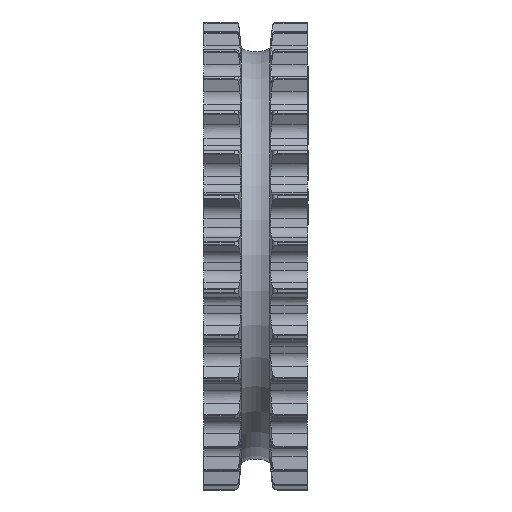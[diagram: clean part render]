
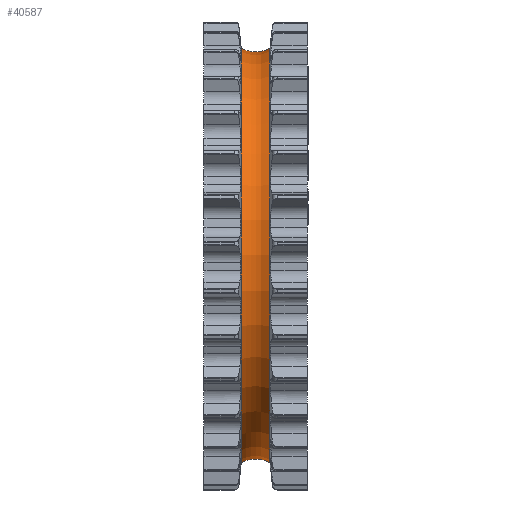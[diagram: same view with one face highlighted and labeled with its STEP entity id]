
A CAD part, front view. The second image highlights one B-rep face of the part: STEP entity #40587.
In plain terms, the highlighted toroidal (fillet/blend) face has major radius 96.01 mm and minor radius 12.7 mm.
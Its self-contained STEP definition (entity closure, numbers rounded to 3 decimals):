
#12216=CARTESIAN_POINT('',(0.,0.,-96.01));
#12217=DIRECTION('',(0.,-1.,0.));
#12218=DIRECTION('',(0.462,0.,0.887));
#12219=AXIS2_PLACEMENT_3D('',#12216,#12217,#12218);
#12224=CARTESIAN_POINT('',(0.,0.,96.01));
#12225=DIRECTION('',(0.,1.,0.));
#12226=DIRECTION('',(0.462,0.,-0.887));
#12227=AXIS2_PLACEMENT_3D('',#12224,#12225,#12226);
#12232=CARTESIAN_POINT('',(5.861,0.,0.));
#12233=DIRECTION('',(-1.,0.,0.));
#12234=DIRECTION('',(0.,0.,-1.));
#12235=AXIS2_PLACEMENT_3D('',#12232,#12233,#12234);
#12285=CARTESIAN_POINT('',(-5.861,0.,0.));
#12286=DIRECTION('',(-1.,0.,0.));
#12287=DIRECTION('',(0.,0.,-1.));
#12288=AXIS2_PLACEMENT_3D('',#12285,#12286,#12287);
#32468=CARTESIAN_POINT('',(5.861,0.,
-84.743));
#32470=VERTEX_POINT('',#32468);
#32471=CARTESIAN_POINT('',(-5.861,0.,
-84.743));
#32472=VERTEX_POINT('',#32471);
#32475=CARTESIAN_POINT('',(5.861,0.,
84.743));
#32476=CARTESIAN_POINT('',(-5.861,0.,
84.743));
#32477=VERTEX_POINT('',#32475);
#32478=VERTEX_POINT('',#32476);
#40575=CARTESIAN_POINT('',(0.,0.,0.));
#40576=DIRECTION('',(1.,0.,0.));
#40577=DIRECTION('',(0.,0.,1.));
#40578=AXIS2_PLACEMENT_3D('',#40575,#40576,#40577);
#40579=TOROIDAL_SURFACE('',#40578,96.01,12.7);
#40580=ORIENTED_EDGE('',*,*,#40565,.T.);
#40582=ORIENTED_EDGE('',*,*,#40581,.T.);
#40583=ORIENTED_EDGE('',*,*,#40568,.F.);
#40584=ORIENTED_EDGE('',*,*,#40275,.F.);
#40585=EDGE_LOOP('',(#40580,#40582,#40583,#40584));
#40586=FACE_OUTER_BOUND('',#40585,.F.);
#12220=CIRCLE('',#12219,12.7);
#12228=CIRCLE('',#12227,12.7);
#12236=CIRCLE('',#12235,84.743);
#12289=CIRCLE('',#12288,84.743);
#40275=EDGE_CURVE('',#32470,#32477,#12236,.T.);
#40565=EDGE_CURVE('',#32470,#32472,#12220,.T.);
#40568=EDGE_CURVE('',#32477,#32478,#12228,.T.);
#40581=EDGE_CURVE('',#32472,#32478,#12289,.T.);
#40587=ADVANCED_FACE('',(#40586),#40579,.F.);
